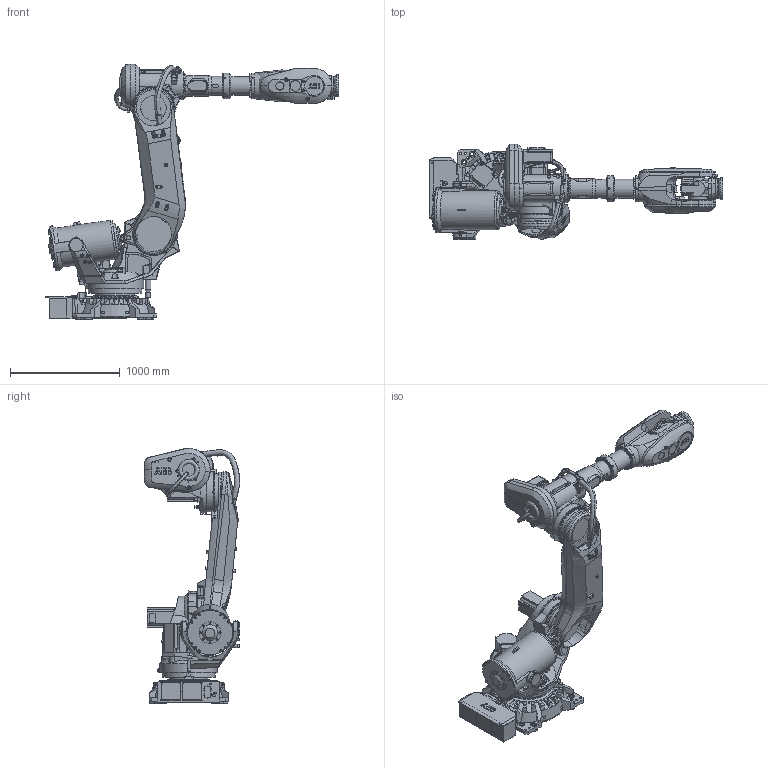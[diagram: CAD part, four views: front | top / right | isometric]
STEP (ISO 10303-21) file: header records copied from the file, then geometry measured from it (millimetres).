
FILE_DESCRIPTION(/* description */ (''),/* implementation_level */ '2;1');
FILE_NAME(/* name */ 'F:\组装完成的图纸\IRB 6700\IRB 6700-245-3.0\IRB 6700-245-3.0.stp',/* time_stamp */ '2023-10-21T19:58:36+08:00',/* author */ ('Administrator'),/* organization */ (''),/* preprocessor_version */ 'ST-DEVELOPER v16.5',/* originating_system */ 'Autodesk Inventor 2017',/* authorisation */ '');
FILE_SCHEMA (('AUTOMOTIVE_DESIGN { 1 0 10303 214 3 1 1 }'));
Length unit declared in the file: millimetre
Products named in the file (15): 部件1; IRB6700_245-300_IRC5_rev01_BASE_CAD; IRB6700_245-300_IRC5_rev00_LINK02_CAD; IRB6700_245-300_IRC5_rev00_LINK02m_CABLE; IRB6700_245-300_IRC5_rev02_LINK01_CAD; IRB6700_245-300_IRC5_rev00_CYLINDER_CAD; IRB6700_245-300_IRC5_rev00_LOGO1_CAD; IRB6700_245-300_IRC5_rev00_LOGO2_CAD; IRB6700_245-300_IRC5_rev00_LOGO3_CAD; IRB6700_245-300_IRC5_rev00_ROD_CAD; IRB6700_245-300_IRC5_rev01_LINK04_CAD; IRB6700_245-300_IRC5_rev01_LINK05_CAD; IRB6700_245-300_IRC5_rev01_LINK06_CAD; IRB6700_245-300_IRC5_rev02_LINK03_CAD; IRB6700_245-300_IRC5_rev02_LINK03m_CABLE
Assembly tree (14 placements, depth 2):
  部件1
    IRB6700_245-300_IRC5_rev01_BASE_CAD
    IRB6700_245-300_IRC5_rev00_LINK02_CAD
    IRB6700_245-300_IRC5_rev00_LINK02m_CABLE
    IRB6700_245-300_IRC5_rev02_LINK01_CAD
    IRB6700_245-300_IRC5_rev00_CYLINDER_CAD
    IRB6700_245-300_IRC5_rev00_LOGO1_CAD
    IRB6700_245-300_IRC5_rev00_LOGO2_CAD
    IRB6700_245-300_IRC5_rev00_LOGO3_CAD
    IRB6700_245-300_IRC5_rev00_ROD_CAD
    IRB6700_245-300_IRC5_rev01_LINK04_CAD
    IRB6700_245-300_IRC5_rev01_LINK05_CAD
    IRB6700_245-300_IRC5_rev01_LINK06_CAD
    IRB6700_245-300_IRC5_rev02_LINK03_CAD
    IRB6700_245-300_IRC5_rev02_LINK03m_CABLE
Bounding box: 2664.5 x 869.57 x 2320.8 mm (x, y, z)
Volume: 513819182.9 mm3; surface area: 13350267.7 mm2
Topology: 15 solids, 15 shells, 4181 faces, 10688 edges, 7022 vertices
Faces by surface type: plane 2774, cylinder 696, cone 375, bspline 326, torus 8, sphere 2
Full cylindrical faces by diameter (mm): 5 x13, 5.45 x1, 6.5 x6, 6.6 x4, 6.8 x22, 8.3 x4, 8.5 x8, 9 x3, 10.2 x38, 11.05 x2, 11.3 x2, 11.363 x1, 11.366 x1, 12 x10, 13 x3, 13.27 x7, 14 x5, 16 x14, 16.27 x24, 17 x4, 17.5 x8, 18 x2, 18.27 x40, 18.5 x32, 19 x33, 20 x2, 20.614 x3, 20.883 x1, 21.2 x1, 22 x2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
Entity records: 224599 total; most frequent: CARTESIAN_POINT 126661, ORIENTED_EDGE 20060, DIRECTION 18873, EDGE_CURVE 10030, VERTEX_POINT 6920, AXIS2_PLACEMENT_3D 6316, LINE 6241, VECTOR 6241
